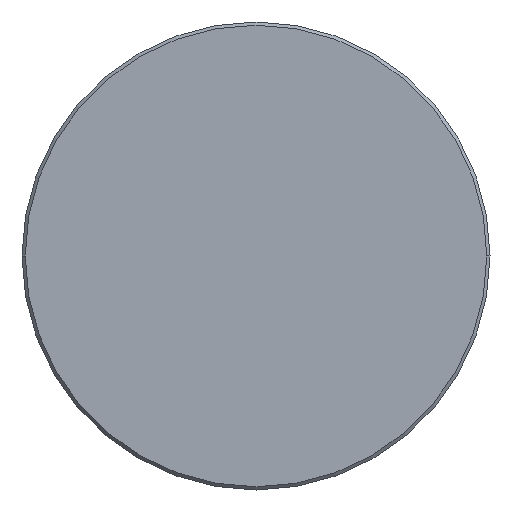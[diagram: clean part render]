
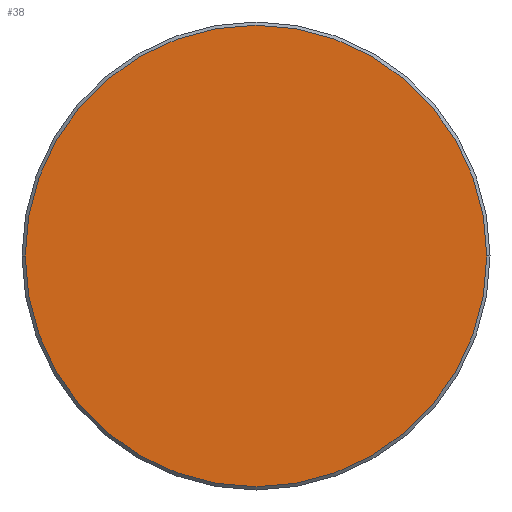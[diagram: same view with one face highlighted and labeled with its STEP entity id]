
A CAD part, left-side view. The second image highlights one B-rep face of the part: STEP entity #38.
In plain terms, the highlighted planar face has unit normal (-1, 0, 0).
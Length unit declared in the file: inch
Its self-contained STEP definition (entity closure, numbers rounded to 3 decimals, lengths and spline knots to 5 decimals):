
#19 = DIRECTION ( 'NONE',  ( 0., -1., 0. ) ) ;
#21 = CARTESIAN_POINT ( 'NONE',  ( 0., 0., 0. ) ) ;
#33 = CARTESIAN_POINT ( 'NONE',  ( 0., 0.28506, 0. ) ) ;
#38 = ADVANCED_FACE ( 'NONE', ( #160 ), #102, .T. ) ;
#56 = VERTEX_POINT ( 'NONE', #33 ) ;
#58 = VERTEX_POINT ( 'NONE', #127 ) ;
#101 = CIRCLE ( 'NONE', #124, 0.28506 ) ;
#102 = PLANE ( 'NONE',  #202 ) ;
#124 = AXIS2_PLACEMENT_3D ( 'NONE', #212, #155, #185 ) ;
#126 = ORIENTED_EDGE ( 'NONE', *, *, #129, .T. ) ;
#127 = CARTESIAN_POINT ( 'NONE',  ( 0., -0.28506, 0. ) ) ;
#129 = EDGE_CURVE ( 'NONE', #56, #58, #232, .T. ) ;
#132 = EDGE_LOOP ( 'NONE', ( #126, #238 ) ) ;
#155 = DIRECTION ( 'NONE',  ( -1., 0., 0. ) ) ;
#160 = FACE_OUTER_BOUND ( 'NONE', #132, .T. ) ;
#185 = DIRECTION ( 'NONE',  ( 0., -1., 0. ) ) ;
#186 = CARTESIAN_POINT ( 'NONE',  ( 0., 0., 0. ) ) ;
#191 = AXIS2_PLACEMENT_3D ( 'NONE', #21, #201, #19 ) ;
#201 = DIRECTION ( 'NONE',  ( -1., 0., 0. ) ) ;
#202 = AXIS2_PLACEMENT_3D ( 'NONE', #186, #298, #249 ) ;
#212 = CARTESIAN_POINT ( 'NONE',  ( 0., 0., 0. ) ) ;
#232 = CIRCLE ( 'NONE', #191, 0.28506 ) ;
#238 = ORIENTED_EDGE ( 'NONE', *, *, #266, .T. ) ;
#249 = DIRECTION ( 'NONE',  ( 0., -1., 0. ) ) ;
#266 = EDGE_CURVE ( 'NONE', #58, #56, #101, .T. ) ;
#298 = DIRECTION ( 'NONE',  ( -1., 0., 0. ) ) ;
